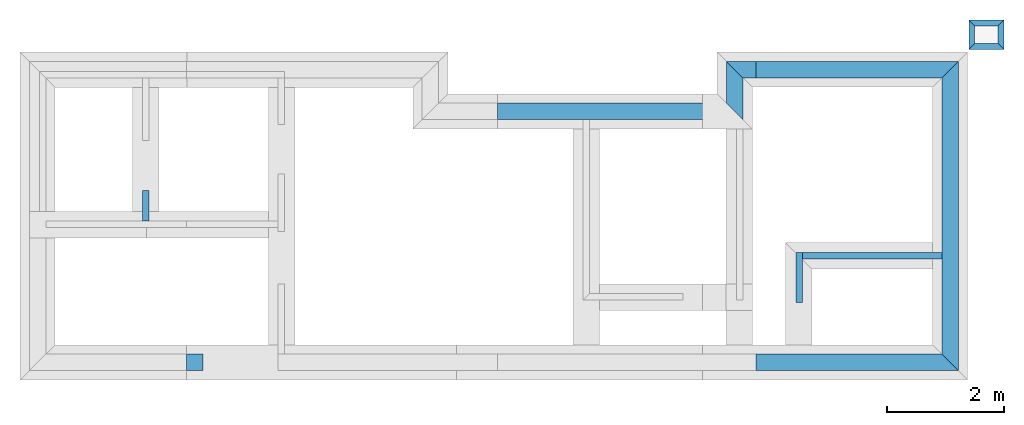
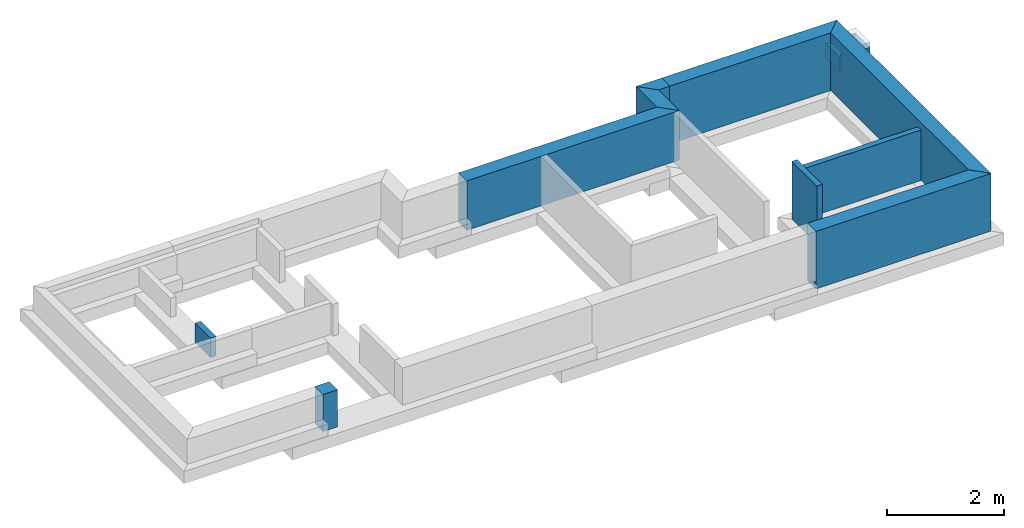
# One storey, part 2 of 2: 14 walls.
"""IFC2X3 building model written with IfcOpenShell, lengths in millimetres."""

from ifc_helpers import new_model, entity, si_unit, converted_unit, money_unit, direction, frame, origin_with_axes, place, context, subcontext, project, spatial, faceted_brep, material, material_list, type_object, element, save


model = new_model("IFC2X3")

# Units and contexts
model_context = context("Model", 3, precision=1e-05, world=origin_with_axes(), true_north=direction((0.0, 1.0)))
body_context = subcontext(model_context, "Body", "Model", "MODEL_VIEW")
ifc_project = project(units=[si_unit("LENGTHUNIT", "METRE", prefix="MILLI"), si_unit("AREAUNIT", "SQUARE_METRE"), si_unit("VOLUMEUNIT", "CUBIC_METRE"), converted_unit("PLANEANGLEUNIT", "DEGREE", entity("IfcPlaneAngleMeasure", 0.0174532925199), si_unit("PLANEANGLEUNIT", "RADIAN"), dimensions=[0, 0, 0, 0, 0, 0, 0]), si_unit("SOLIDANGLEUNIT", "STERADIAN"), money_unit("AUD"), si_unit("TIMEUNIT", "SECOND"), si_unit("MASSUNIT", "GRAM"), si_unit("THERMODYNAMICTEMPERATUREUNIT", "DEGREE_CELSIUS"), si_unit("LUMINOUSINTENSITYUNIT", "LUMEN")], contexts=[model_context])

# Site, building, storey
site_placement = place(None, origin_with_axes())
site = spatial("IfcSite", under=ifc_project, at=site_placement, Name="Lot 1. East Hills", CompositionType="ELEMENT")
building_placement = place(site_placement, origin_with_axes())
building = spatial("IfcBuilding", under=site, at=building_placement, Name="Proposed Units 7 & 8", CompositionType="ELEMENT")
storey_placement = place(building_placement, frame((0.0, 0.0, 1750.0), z_axis=(0.0, 0.0, 1.0), x_axis=(1.0, 0.0, 0.0)))
storey = spatial("IfcBuildingStorey", under=building, at=storey_placement, Name="Foundation", CompositionType="ELEMENT", Elevation=1750.0)

# Walls
ifc_material_1 = material(Name="Brickwork Faced")
ifc_material_2 = material(Name="Cavity")
ifc_material_3 = material(Name="Brick Common")
ifc_material_list_1 = material_list([ifc_material_1, ifc_material_2, ifc_material_3])
wall_type_1 = type_object("IfcWallType", Name="Cavity wall 280 Foundation 280", PredefinedType="NOTDEFINED")
wall_1_placement = place(storey_placement, frame((15830.0, -2.0, 250.0), z_axis=(0.0, 0.0, 1.0), x_axis=(0.0, 1.0, 0.0)))
element("IfcWall", 1, at=wall_1_placement, inside=storey, type_object=wall_type_1, material=ifc_material_list_1, Name="RET-WALL-F05 Cavity wall 280 Foundation Wall", context=body_context, shape_type="Brep", body=[
    faceted_brep([(5265.0, 0.0, 0.0), (5265.0, 0.0, 1202.0), (0.0, 0.0, 1202.0), (0.0, 0.0, 0.0), (4985.00000119, 279.999998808, 1202.0), (4985.00000119, 279.999998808, 0.0), (279.999998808, 279.999998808, 1202.0), (279.999998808, 279.999998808, 0.0)], [[[0, 1, 2, 3]], [[4, 1, 0, 5]], [[1, 4, 6, 2]], [[2, 6, 7, 3]], [[5, 0, 3, 7]], [[4, 5, 7, 6]]]),
])
wall_2_placement = place(storey_placement, frame((15830.0, 5263.0, 250.0), z_axis=(0.0, 0.0, 1.0), x_axis=(-1.0, 0.0, 0.0)))
element("IfcWall", 2, at=wall_2_placement, inside=storey, type_object=wall_type_1, material=ifc_material_list_1, Name="RET-WALL-F03 Cavity wall 280 Foundation Wall", context=body_context, shape_type="Brep", body=[
    faceted_brep([(279.999998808, 279.999998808, 1202.0), (0.0, 0.0, 1202.0), (3450.0, 0.0, 1202.0), (3450.0, 279.999998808, 1202.0), (279.999998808, 279.999998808, 0.0), (0.0, 0.0, 0.0), (3450.0, 0.0, 0.0), (3450.0, 279.999998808, 0.0)], [[[0, 1, 2, 3]], [[1, 0, 4, 5]], [[1, 5, 6, 2]], [[7, 3, 2, 6]], [[4, 0, 3, 7]], [[5, 4, 7, 6]]]),
])
wall_3_placement = place(storey_placement, frame((11880.0, 4553.0, 422.0), z_axis=(0.0, 0.0, 1.0), x_axis=(-1.0, 0.0, 0.0)))
element("IfcWall", 3, at=wall_3_placement, inside=storey, type_object=wall_type_1, material=ifc_material_list_1, Name="RET-WALL-F00 Cavity wall 280 Foundation Wall", context=body_context, shape_type="Brep", body=[
    faceted_brep([(-279.999998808, 279.999998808, 0.0), (-279.999998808, 279.999998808, 1030.0), (3905.0, 279.999998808, 1030.0), (3905.0, 279.999998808, 0.0), (0.0, 0.0, 1030.0), (0.0, 0.0, 0.0), (3905.0, 0.0, 1030.0), (3905.0, 0.0, 0.0)], [[[0, 1, 2, 3]], [[4, 1, 0, 5]], [[1, 4, 6, 2]], [[3, 2, 6, 7]], [[5, 0, 3, 7]], [[4, 5, 7, 6]]]),
])
wall_4_placement = place(storey_placement, frame((11880.0, 5263.0, 422.0), z_axis=(0.0, 0.0, 1.0), x_axis=(0.0, -1.0, 0.0)))
element("IfcWall", 4, at=wall_4_placement, inside=storey, type_object=wall_type_1, material=ifc_material_list_1, Name="RET-WALL-F02 Cavity wall 280 Foundation Wall", context=body_context, shape_type="Brep", body=[
    faceted_brep([(710.0, 0.0, 1030.0), (989.999998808, 279.999998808, 1030.0), (279.999998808, 279.999998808, 1030.0), (0.0, 0.0, 1030.0), (710.0, 0.0, 0.0), (989.999998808, 279.999998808, 0.0), (279.999998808, 279.999998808, 0.0), (0.0, 0.0, 0.0)], [[[0, 1, 2, 3]], [[1, 0, 4, 5]], [[1, 5, 6, 2]], [[3, 2, 6, 7]], [[4, 0, 3, 7]], [[5, 4, 7, 6]]]),
])
wall_5_placement = place(storey_placement, frame((2674.99999218, -2.0, 680.0), z_axis=(0.0, 0.0, 1.0), x_axis=(1.0, 0.0, 0.0)))
element("IfcWall", 5, at=wall_5_placement, inside=storey, type_object=wall_type_1, material=ifc_material_list_1, Name="RET-WALL-F07 Cavity wall 280 Foundation Wall", context=body_context, shape_type="Brep", body=[
    faceted_brep([(0.0, 0.0, 0.0), (285.000007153, 0.0, 0.0), (285.000007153, 0.0, 772.0), (0.0, 0.0, 772.0), (0.0, 279.999998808, 0.0), (285.000007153, 279.999998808, 0.0), (285.000007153, 279.999998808, 772.0), (0.0, 279.999998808, 772.0)], [[[0, 1, 2, 3]], [[4, 5, 1, 0]], [[5, 6, 2, 1]], [[6, 7, 3, 2]], [[7, 4, 0, 3]], [[4, 7, 6, 5]]]),
])
wall_6_placement = place(storey_placement, frame((12380.0, 5263.0, 422.0), z_axis=(0.0, 0.0, 1.0), x_axis=(-1.0, 0.0, 0.0)))
element("IfcWall", 6, at=wall_6_placement, inside=storey, type_object=wall_type_1, material=ifc_material_list_1, Name="RET-WALL-F04 Cavity wall 280 Foundation Wall", context=body_context, shape_type="Brep", body=[
    faceted_brep([(500.0, 0.0, 1030.0), (220.000001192, 279.999998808, 1030.0), (0.0, 279.999998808, 1030.0), (0.0, 0.0, 1030.0), (500.0, 0.0, 0.0), (220.000001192, 279.999998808, 0.0), (0.0, 279.999998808, 0.0), (0.0, 0.0, 0.0)], [[[0, 1, 2, 3]], [[1, 0, 4, 5]], [[1, 5, 6, 2]], [[2, 6, 7, 3]], [[4, 0, 3, 7]], [[5, 4, 7, 6]]]),
])
wall_7_placement = place(storey_placement, frame((12380.0, -2.0, 250.0), z_axis=(0.0, 0.0, 1.0), x_axis=(1.0, 0.0, 0.0)))
element("IfcWall", 7, at=wall_7_placement, inside=storey, type_object=wall_type_1, material=ifc_material_list_1, Name="RET-WALL-F09 Cavity wall 280 Foundation Wall", context=body_context, shape_type="Brep", body=[
    faceted_brep([(3450.0, 0.0, 0.0), (3450.0, 0.0, 1202.0), (0.0, 0.0, 1202.0), (0.0, 0.0, 0.0), (3170.00000119, 279.999998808, 1202.0), (3170.00000119, 279.999998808, 0.0), (0.0, 279.999998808, 1202.0), (0.0, 279.999998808, 0.0)], [[[0, 1, 2, 3]], [[4, 1, 0, 5]], [[1, 4, 6, 2]], [[6, 7, 3, 2]], [[5, 0, 3, 7]], [[4, 5, 7, 6]]]),
])
ifc_material_list_2 = material_list([ifc_material_3])
wall_type_2 = type_object("IfcWallType", Name="Solid Brick Foundation 110", PredefinedType="NOTDEFINED")
wall_8_placement = place(storey_placement, frame((2039.9999994, 2433.00000067, 938.0), z_axis=(0.0, 0.0, 1.0), x_axis=(0.0, 1.0, 0.0)))
element("IfcWall", 8, at=wall_8_placement, inside=storey, type_object=wall_type_2, material=ifc_material_list_2, Name="INT-WALLG02 Solid Brick Foundation Wall", context=body_context, shape_type="Brep", body=[
    faceted_brep([(109.999999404, 109.999999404, 404.0), (109.999999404, 0.0, 404.0), (633.089945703, 0.0, 404.0), (633.089945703, 109.999999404, 404.0), (109.999999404, 0.0, 0.0), (109.999999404, 109.999999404, 0.0), (633.089945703, 0.0, 0.0), (633.089945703, 109.999999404, 0.0)], [[[0, 1, 2, 3]], [[4, 1, 0, 5]], [[1, 4, 6, 2]], [[7, 3, 2, 6]], [[5, 0, 3, 7]], [[4, 5, 7, 6]]]),
])
wall_9_placement = place(storey_placement, frame((15830.0, 2007.99999873, 250.0), z_axis=(0.0, 0.0, 1.0), x_axis=(-1.0, 0.0, 0.0)))
element("IfcWall", 9, at=wall_9_placement, inside=storey, type_object=wall_type_2, material=ifc_material_list_2, Name="INT-WALLG06 Solid Brick Foundation Wall", context=body_context, shape_type="Brep", body=[
    faceted_brep([(2764.99999908, 0.0, 1052.0), (2654.99999964, 109.999999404, 1052.0), (279.999998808, 109.999999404, 1052.0), (279.999998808, 0.0, 1052.0), (2764.99999908, 0.0, 0.0), (2654.99999964, 109.999999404, 0.0), (279.999998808, 109.999999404, 0.0), (279.999998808, 0.0, 0.0)], [[[0, 1, 2, 3]], [[1, 0, 4, 5]], [[1, 5, 6, 2]], [[7, 3, 2, 6]], [[4, 0, 3, 7]], [[5, 4, 7, 6]]]),
])
wall_10_placement = place(storey_placement, frame((13065.0000009, 2007.99999873, 250.0), z_axis=(0.0, 0.0, 1.0), x_axis=(3.18182370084e-10, -1.0, 0.0)))
element("IfcWall", 10, at=wall_10_placement, inside=storey, type_object=wall_type_2, material=ifc_material_list_2, Name="INT-WALLG07 Solid Brick Foundation Wall", context=body_context, shape_type="Brep", body=[
    faceted_brep([(109.999999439, 109.999999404, 0.0), (109.999999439, 109.999999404, 1052.0), (0.0, 109.999999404, 1052.0), (0.0, 109.999999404, 1202.0), (852.999999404, 109.999999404, 1202.0), (852.999999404, 109.999999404, 0.0), (0.0, 0.0, 0.0), (0.0, 0.0, 1052.0), (0.0, 0.0, 1202.0), (852.999999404, 0.0, 1202.0), (852.999999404, 0.0, 0.0)], [[[0, 1, 2, 3, 4, 5]], [[0, 6, 7, 1]], [[7, 2, 1]], [[2, 7, 8, 3]], [[4, 3, 8, 9]], [[5, 4, 9, 10]], [[6, 0, 5, 10]], [[7, 6, 10, 9, 8]]]),
])
ifc_material_4 = material(Name="Empty Fill")
wall_type_3 = type_object("IfcWallType", Name="Empty Fill 100", PredefinedType="NOTDEFINED")
wall_11_placement = place(storey_placement, frame((16109.3673149, 5570.83832056, 186.990683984), z_axis=(0.0, 0.0, 1.0), x_axis=(0.0, 1.0, 0.0)))
element("IfcWall", 11, at=wall_11_placement, inside=storey, type_object=wall_type_3, material=ifc_material_4, Name="Wall011 Empty Fill Wall", context=body_context, shape_type="Brep", body=[
    faceted_brep([(300.0, 0.0, 0.0), (300.0, 0.0, 300.0), (0.0, 0.0, 300.0), (0.0, 0.0, 0.0), (400.0, 100.0, 300.0), (400.0, 100.0, 0.0), (-100.0, 100.0, 300.0), (-100.0, 100.0, 0.0)], [[[0, 1, 2, 3]], [[4, 1, 0, 5]], [[1, 4, 6, 2]], [[2, 6, 7, 3]], [[5, 0, 3, 7]], [[4, 5, 7, 6]]]),
])
wall_12_placement = place(storey_placement, frame((16109.3673149, 5870.83832056, 186.990683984), z_axis=(0.0, 0.0, 1.0), x_axis=(1.0, 0.0, 0.0)))
element("IfcWall", 12, at=wall_12_placement, inside=storey, type_object=wall_type_3, material=ifc_material_4, Name="Wall008 Empty Fill Wall", context=body_context, shape_type="Brep", body=[
    faceted_brep([(400.0, 0.0, 300.0), (500.0, 100.0, 300.0), (-100.0, 100.0, 300.0), (0.0, 0.0, 300.0), (400.0, 0.0, 0.0), (500.0, 100.0, 0.0), (-100.0, 100.0, 0.0), (0.0, 0.0, 0.0)], [[[0, 1, 2, 3]], [[1, 0, 4, 5]], [[1, 5, 6, 2]], [[3, 2, 6, 7]], [[4, 0, 3, 7]], [[5, 4, 7, 6]]]),
])
wall_13_placement = place(storey_placement, frame((16509.3673149, 5870.83832056, 186.990683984), z_axis=(0.0, 0.0, 1.0), x_axis=(0.0, -1.0, 0.0)))
element("IfcWall", 13, at=wall_13_placement, inside=storey, type_object=wall_type_3, material=ifc_material_4, Name="Wall009 Empty Fill Wall", context=body_context, shape_type="Brep", body=[
    faceted_brep([(300.0, 0.0, 300.0), (400.0, 100.0, 300.0), (-100.0, 100.0, 300.0), (0.0, 0.0, 300.0), (300.0, 0.0, 0.0), (400.0, 100.0, 0.0), (-100.0, 100.0, 0.0), (0.0, 0.0, 0.0)], [[[0, 1, 2, 3]], [[1, 0, 4, 5]], [[1, 5, 6, 2]], [[3, 2, 6, 7]], [[4, 0, 3, 7]], [[5, 4, 7, 6]]]),
])
wall_14_placement = place(storey_placement, frame((16509.3673149, 5570.83832056, 186.990683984), z_axis=(0.0, 0.0, 1.0), x_axis=(-1.0, 0.0, 0.0)))
element("IfcWall", 14, at=wall_14_placement, inside=storey, type_object=wall_type_3, material=ifc_material_4, Name="Wall010 Empty Fill Wall", context=body_context, shape_type="Brep", body=[
    faceted_brep([(400.0, 0.0, 0.0), (400.0, 0.0, 300.0), (0.0, 0.0, 300.0), (0.0, 0.0, 0.0), (500.0, 100.0, 300.0), (500.0, 100.0, 0.0), (-100.0, 100.0, 300.0), (-100.0, 100.0, 0.0)], [[[0, 1, 2, 3]], [[4, 1, 0, 5]], [[1, 4, 6, 2]], [[2, 6, 7, 3]], [[5, 0, 3, 7]], [[4, 5, 7, 6]]]),
])

save(model, "model.ifc")
